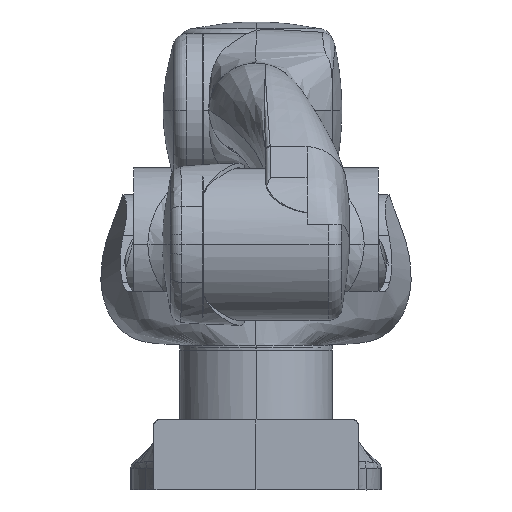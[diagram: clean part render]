
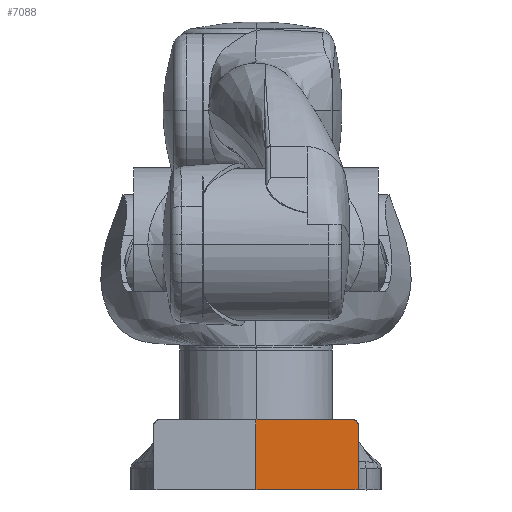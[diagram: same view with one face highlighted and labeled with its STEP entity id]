
A CAD part, left-side view. The second image highlights one B-rep face of the part: STEP entity #7088.
In plain terms, the highlighted free-form (B-spline) face has degree [1, 1] with [3, 3] control points.
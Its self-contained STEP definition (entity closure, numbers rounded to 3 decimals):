
#666 = CARTESIAN_POINT ( 'NONE',  ( -55., -43.55, 27.173 ) ) ;
#1286 = VERTEX_POINT ( 'NONE', #1901 ) ;
#1836 = CARTESIAN_POINT ( 'NONE',  ( -55., -41.388, 29.915 ) ) ;
#1851 = VERTEX_POINT ( 'NONE', #4193 ) ;
#1901 = CARTESIAN_POINT ( 'NONE',  ( -55., 0., 30. ) ) ;
#2399 = CARTESIAN_POINT ( 'NONE',  ( -55., -40.829, 29.998 ) ) ;
#3375 = CARTESIAN_POINT ( 'NONE',  ( -55., -43.551, 0. ) ) ;
#3969 = CARTESIAN_POINT ( 'NONE',  ( -55., -43.551, 8.963 ) ) ;
#4193 = CARTESIAN_POINT ( 'NONE',  ( -55., -41.551, 0. ) ) ;
#5306 = CARTESIAN_POINT ( 'NONE',  ( -55., 0., 30. ) ) ;
#5331 = ORIENTED_EDGE ( 'NONE', *, *, #29694, .T. ) ;
#6398 = CARTESIAN_POINT ( 'NONE',  ( -55., -41.551, 0. ) ) ;
#7088 = ADVANCED_FACE ( 'NONE', ( #66595 ), #38760, .T. ) ;
#8390 = CARTESIAN_POINT ( 'NONE',  ( -55., -43.473, 27.744 ) ) ;
#8969 = CARTESIAN_POINT ( 'NONE',  ( -55., -43.337, 28.194 ) ) ;
#9252 = CARTESIAN_POINT ( 'NONE',  ( -55., -42.146, 29.612 ) ) ;
#13198 = B_SPLINE_CURVE_WITH_KNOTS ( 'NONE', 3,
 ( #40898, #666, #77136, #8390, #43231, #22986, #42370, #8969, #49199, #69391, #22697, #56018, #70547, #22120, #69985, #21826, #28989, #9252, #42949, #55728, #36404, #69692, #29851, #56872, #15259, #35551, #1836, #83970, #76839, #2399, #76552 ),
 .UNSPECIFIED., .F., .F.,
 ( 4, 2, 1, 1, 1, 2, 2, 1, 2, 2, 1, 1, 1, 1, 2, 2, 1, 2, 2, 4 ),
 ( 0., 0.125, 0.187, 0.219, 0.234, 0.242, 0.25, 0.375, 0.437, 0.5, 0.625, 0.687, 0.719, 0.734, 0.742, 0.75, 0.812, 0.844, 0.875, 1. ),
 .UNSPECIFIED. ) ;
#13718 = EDGE_CURVE ( 'NONE', #71260, #1851, #47939, .T. ) ;
#14427 = CARTESIAN_POINT ( 'NONE',  ( -55., 0., 28.001 ) ) ;
#14983 = B_SPLINE_CURVE_WITH_KNOTS ( 'NONE', 3,
 ( #3375, #3969, #31730, #18283 ),
 .UNSPECIFIED., .F., .F.,
 ( 4, 4 ),
 ( 0., 1. ),
 .UNSPECIFIED. ) ;
#15259 = CARTESIAN_POINT ( 'NONE',  ( -55., -41.638, 29.847 ) ) ;
#18121 = CARTESIAN_POINT ( 'NONE',  ( -55., -41.551, 0. ) ) ;
#18283 = CARTESIAN_POINT ( 'NONE',  ( -55., -43.551, 26.888 ) ) ;
#19502 = CARTESIAN_POINT ( 'NONE',  ( -55., 0., 28. ) ) ;
#20985 = CARTESIAN_POINT ( 'NONE',  ( -55., 0., 28. ) ) ;
#21826 = CARTESIAN_POINT ( 'NONE',  ( -55., -42.608, 29.271 ) ) ;
#22120 = CARTESIAN_POINT ( 'NONE',  ( -55., -42.857, 29.006 ) ) ;
#22697 = CARTESIAN_POINT ( 'NONE',  ( -55., -43.249, 28.41 ) ) ;
#22986 = CARTESIAN_POINT ( 'NONE',  ( -55., -43.382, 28.073 ) ) ;
#24907 = CARTESIAN_POINT ( 'NONE',  ( -55., -43.551, 0. ) ) ;
#25573 = VERTEX_POINT ( 'NONE', #24907 ) ;
#28989 = CARTESIAN_POINT ( 'NONE',  ( -55., -42.405, 29.447 ) ) ;
#29694 = EDGE_CURVE ( 'NONE', #69682, #42847, #13198, .T. ) ;
#29851 = CARTESIAN_POINT ( 'NONE',  ( -55., -41.885, 29.746 ) ) ;
#30166 = EDGE_CURVE ( 'NONE', #1286, #42847, #47430, .T. ) ;
#31730 = CARTESIAN_POINT ( 'NONE',  ( -55., -43.551, 17.925 ) ) ;
#32483 = ORIENTED_EDGE ( 'NONE', *, *, #65668, .F. ) ;
#33339 = EDGE_CURVE ( 'NONE', #25573, #69682, #14983, .T. ) ;
#33855 = CARTESIAN_POINT ( 'NONE',  ( -55., 0., 30. ) ) ;
#34561 = CARTESIAN_POINT ( 'NONE',  ( -55., 0., 0. ) ) ;
#35551 = CARTESIAN_POINT ( 'NONE',  ( -55., -41.489, 29.889 ) ) ;
#35886 = B_SPLINE_CURVE_WITH_KNOTS ( 'NONE', 1,
 ( #34561, #55912 ),
 .UNSPECIFIED., .F., .F.,
 ( 2, 2 ),
 ( 0., 1. ),
 .UNSPECIFIED. ) ;
#36404 = CARTESIAN_POINT ( 'NONE',  ( -55., -41.913, 29.733 ) ) ;
#36992 = ORIENTED_EDGE ( 'NONE', *, *, #13718, .T. ) ;
#37594 = B_SPLINE_CURVE_WITH_KNOTS ( 'NONE', 1,
 ( #20985, #14427, #62035 ),
 .UNSPECIFIED., .F., .F.,
 ( 2, 1, 2 ),
 ( 0., 0., 1. ),
 .UNSPECIFIED. ) ;
#38760 = B_SPLINE_SURFACE_WITH_KNOTS ( 'NONE', 1, 1, ( 
 ( #33855, #60569, #47195 ),
 ( #19502, #67705, #87352 ),
 ( #52827, #6398, #53131 ) ),
 .UNSPECIFIED., .F., .F., .F.,
 ( 2, 1, 2 ),
 ( 2, 1, 2 ),
 ( -0.065, 0.006, 1. ),
 ( 0., 0.994, 1.042 ),
 .UNSPECIFIED. ) ;
#39005 = CARTESIAN_POINT ( 'NONE',  ( -55., -40.551, 30. ) ) ;
#40898 = CARTESIAN_POINT ( 'NONE',  ( -55., -43.551, 26.888 ) ) ;
#42099 = ORIENTED_EDGE ( 'NONE', *, *, #67804, .T. ) ;
#42370 = CARTESIAN_POINT ( 'NONE',  ( -55., -43.351, 28.158 ) ) ;
#42376 = CARTESIAN_POINT ( 'NONE',  ( -55., 0., 0. ) ) ;
#42847 = VERTEX_POINT ( 'NONE', #64588 ) ;
#42949 = CARTESIAN_POINT ( 'NONE',  ( -55., -42.012, 29.685 ) ) ;
#43231 = CARTESIAN_POINT ( 'NONE',  ( -55., -43.437, 27.9 ) ) ;
#44822 = ORIENTED_EDGE ( 'NONE', *, *, #62224, .F. ) ;
#44928 = CARTESIAN_POINT ( 'NONE',  ( -55., -41.551, 0. ) ) ;
#46067 = VERTEX_POINT ( 'NONE', #88319 ) ;
#47195 = CARTESIAN_POINT ( 'NONE',  ( -55., -43.551, 30. ) ) ;
#47430 = B_SPLINE_CURVE_WITH_KNOTS ( 'NONE', 1,
 ( #5306, #39005 ),
 .UNSPECIFIED., .F., .F.,
 ( 2, 2 ),
 ( 0., 1. ),
 .UNSPECIFIED. ) ;
#47939 = B_SPLINE_CURVE_WITH_KNOTS ( 'NONE', 1,
 ( #42376, #70275 ),
 .UNSPECIFIED., .F., .F.,
 ( 2, 2 ),
 ( 0., 1. ),
 .UNSPECIFIED. ) ;
#49199 = CARTESIAN_POINT ( 'NONE',  ( -55., -43.328, 28.218 ) ) ;
#51198 = ORIENTED_EDGE ( 'NONE', *, *, #30166, .F. ) ;
#52827 = CARTESIAN_POINT ( 'NONE',  ( -55., 0., 0. ) ) ;
#53131 = CARTESIAN_POINT ( 'NONE',  ( -55., -43.551, 0. ) ) ;
#55728 = CARTESIAN_POINT ( 'NONE',  ( -55., -41.943, 29.719 ) ) ;
#55912 = CARTESIAN_POINT ( 'NONE',  ( -55., 0., 28. ) ) ;
#56018 = CARTESIAN_POINT ( 'NONE',  ( -55., -43.124, 28.649 ) ) ;
#56872 = CARTESIAN_POINT ( 'NONE',  ( -55., -41.781, 29.793 ) ) ;
#58060 = B_SPLINE_CURVE_WITH_KNOTS ( 'NONE', 1,
 ( #44928, #18121, #86261 ),
 .UNSPECIFIED., .F., .F.,
 ( 2, 1, 2 ),
 ( 0., 0., 1. ),
 .UNSPECIFIED. ) ;
#60569 = CARTESIAN_POINT ( 'NONE',  ( -55., -41.551, 30. ) ) ;
#61732 = CARTESIAN_POINT ( 'NONE',  ( -55., -43.551, 26.888 ) ) ;
#62035 = CARTESIAN_POINT ( 'NONE',  ( -55., 0., 30. ) ) ;
#62224 = EDGE_CURVE ( 'NONE', #71260, #46067, #35886, .T. ) ;
#64588 = CARTESIAN_POINT ( 'NONE',  ( -55., -40.551, 30. ) ) ;
#65668 = EDGE_CURVE ( 'NONE', #46067, #1286, #37594, .T. ) ;
#66595 = FACE_OUTER_BOUND ( 'NONE', #85901, .T. ) ;
#67655 = ORIENTED_EDGE ( 'NONE', *, *, #33339, .T. ) ;
#67705 = CARTESIAN_POINT ( 'NONE',  ( -55., -41.551, 28. ) ) ;
#67804 = EDGE_CURVE ( 'NONE', #1851, #25573, #58060, .T. ) ;
#69391 = CARTESIAN_POINT ( 'NONE',  ( -55., -43.322, 28.231 ) ) ;
#69682 = VERTEX_POINT ( 'NONE', #61732 ) ;
#69692 = CARTESIAN_POINT ( 'NONE',  ( -55., -41.893, 29.742 ) ) ;
#69985 = CARTESIAN_POINT ( 'NONE',  ( -55., -42.799, 29.072 ) ) ;
#70275 = CARTESIAN_POINT ( 'NONE',  ( -55., -41.551, 0. ) ) ;
#70547 = CARTESIAN_POINT ( 'NONE',  ( -55., -42.968, 28.866 ) ) ;
#71260 = VERTEX_POINT ( 'NONE', #74230 ) ;
#74230 = CARTESIAN_POINT ( 'NONE',  ( -55., 0., 0. ) ) ;
#76552 = CARTESIAN_POINT ( 'NONE',  ( -55., -40.551, 30. ) ) ;
#76839 = CARTESIAN_POINT ( 'NONE',  ( -55., -41.074, 29.977 ) ) ;
#77136 = CARTESIAN_POINT ( 'NONE',  ( -55., -43.53, 27.423 ) ) ;
#83970 = CARTESIAN_POINT ( 'NONE',  ( -55., -41.339, 29.926 ) ) ;
#85901 = EDGE_LOOP ( 'NONE', ( #51198, #32483, #44822, #36992, #42099, #67655, #5331 ) ) ;
#86261 = CARTESIAN_POINT ( 'NONE',  ( -55., -43.551, 0. ) ) ;
#87352 = CARTESIAN_POINT ( 'NONE',  ( -55., -43.551, 28. ) ) ;
#88319 = CARTESIAN_POINT ( 'NONE',  ( -55., 0., 28. ) ) ;
